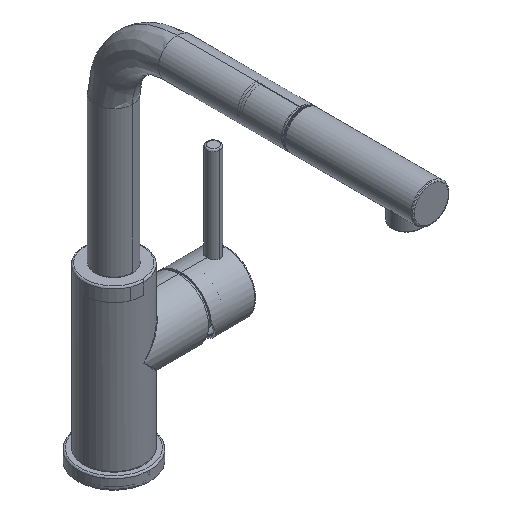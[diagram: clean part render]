
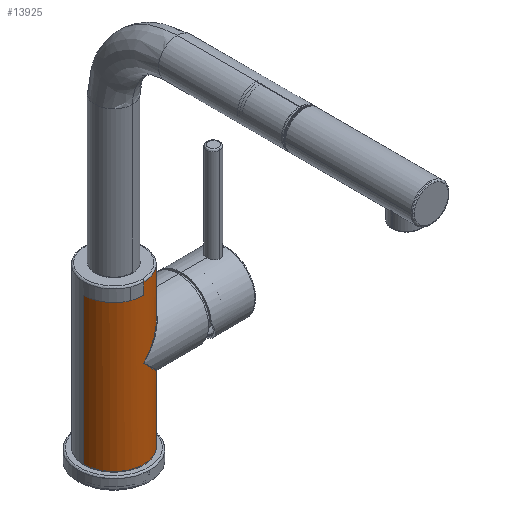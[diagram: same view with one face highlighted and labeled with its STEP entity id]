
A CAD part, isometric view. The second image highlights one B-rep face of the part: STEP entity #13925.
In plain terms, the highlighted cylindrical face has radius 22.5 mm (diameter 45 mm), a partial arc.
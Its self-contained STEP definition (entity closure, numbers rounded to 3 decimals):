
#5819=TRIMMED_CURVE($,#6822,(#226521),(#226522),.T.,.CARTESIAN.);
#5820=TRIMMED_CURVE($,#6823,(#226526),(#226527),.T.,.CARTESIAN.);
#5821=TRIMMED_CURVE($,#6824,(#226537),(#226538),.T.,.CARTESIAN.);
#5822=TRIMMED_CURVE($,#6825,(#226566),(#226567),.T.,.CARTESIAN.);
#5823=TRIMMED_CURVE($,#6826,(#226569),(#226570),.T.,.CARTESIAN.);
#6822=CIRCLE('',#126799,22.5);
#6823=CIRCLE('',#126800,22.5);
#6824=CIRCLE('',#126801,22.5);
#6825=CIRCLE('',#126802,22.5);
#6826=CIRCLE('',#126803,22.5);
#7603=CYLINDRICAL_SURFACE('',#126610,22.5);
#13925=ADVANCED_FACE('',(#20317),#7603,.T.);
#20317=FACE_OUTER_BOUND('',#26688,.T.);
#26688=EDGE_LOOP('',(#54245,#54246,#54247,#54248,#54249,#54250,#54251,#54252,
#54253,#54254,#54255,#54256,#54257,#54258));
#54245=ORIENTED_EDGE('',*,*,#76799,.T.);
#54246=ORIENTED_EDGE('',*,*,#76800,.T.);
#54247=ORIENTED_EDGE('',*,*,#76798,.T.);
#54248=ORIENTED_EDGE('',*,*,#76797,.T.);
#54249=ORIENTED_EDGE('',*,*,#76796,.T.);
#54250=ORIENTED_EDGE('',*,*,#76803,.T.);
#54251=ORIENTED_EDGE('',*,*,#76795,.T.);
#54252=ORIENTED_EDGE('',*,*,#76790,.F.);
#54253=ORIENTED_EDGE('',*,*,#76794,.T.);
#54254=ORIENTED_EDGE('',*,*,#76802,.F.);
#54255=ORIENTED_EDGE('',*,*,#76801,.F.);
#54256=ORIENTED_EDGE('',*,*,#76793,.T.);
#54257=ORIENTED_EDGE('',*,*,#76792,.T.);
#54258=ORIENTED_EDGE('',*,*,#76791,.T.);
#76790=EDGE_CURVE('',#112268,#112269,#5819,.T.);
#76791=EDGE_CURVE('',#112273,#112271,#98021,.T.);
#76792=EDGE_CURVE('',#112274,#112273,#5820,.T.);
#76793=EDGE_CURVE('',#112275,#112274,#98022,.T.);
#76794=EDGE_CURVE('',#112268,#112276,#98023,.T.);
#76795=EDGE_CURVE('',#112277,#112269,#98024,.T.);
#76796=EDGE_CURVE('',#112279,#112278,#98025,.T.);
#76797=EDGE_CURVE('',#112280,#112279,#5821,.T.);
#76798=EDGE_CURVE('',#112281,#112280,#98026,.T.);
#76799=EDGE_CURVE('',#112271,#112272,#98027,.T.);
#76800=EDGE_CURVE('',#112272,#112281,#98028,.T.);
#76801=EDGE_CURVE('',#112275,#112282,#5822,.T.);
#76802=EDGE_CURVE('',#112282,#112276,#5823,.T.);
#76803=EDGE_CURVE('',#112278,#112277,#98029,.T.);
#98021=B_SPLINE_CURVE_WITH_KNOTS('',1,(#226523,#226524),.UNSPECIFIED.,.F.,
 .F.,(2,2),(-42.5,0.),.UNSPECIFIED.);
#98022=B_SPLINE_CURVE_WITH_KNOTS('',1,(#226528,#226529),.UNSPECIFIED.,.F.,
 .F.,(2,2),(-110.,0.),.UNSPECIFIED.);
#98023=B_SPLINE_CURVE_WITH_KNOTS('',1,(#226530,#226531),.UNSPECIFIED.,.F.,
 .F.,(2,2),(-8.8,0.),.UNSPECIFIED.);
#98024=B_SPLINE_CURVE_WITH_KNOTS('',1,(#226532,#226533),.UNSPECIFIED.,.F.,
 .F.,(2,2),(-4.55,0.),.UNSPECIFIED.);
#98025=B_SPLINE_CURVE_WITH_KNOTS('',1,(#226534,#226535),.UNSPECIFIED.,.F.,
 .F.,(2,2),(-0.15,0.),.UNSPECIFIED.);
#98026=B_SPLINE_CURVE_WITH_KNOTS('',1,(#226539,#226540),.UNSPECIFIED.,.F.,
 .F.,(2,2),(-20.5,0.),.UNSPECIFIED.);
#98027=B_SPLINE_CURVE_WITH_KNOTS('',3,(#226541,#226542,#226543,#226544,
#226545,#226546,#226547,#226548,#226549,#226550,#226551,#226552),
 .UNSPECIFIED.,.F.,.F.,(4,1,1,1,1,1,1,1,1,4),(0.,4.859,9.718,
14.577,19.436,24.295,29.154,34.013,
38.872,43.73),.UNSPECIFIED.);
#98028=B_SPLINE_CURVE_WITH_KNOTS('',3,(#226553,#226554,#226555,#226556,
#226557,#226558,#226559,#226560,#226561,#226562,#226563,#226564),
 .UNSPECIFIED.,.F.,.F.,(4,1,1,1,1,1,1,1,1,4),(0.,4.859,9.718,
14.577,19.436,24.295,29.154,34.013,
38.872,43.73),.UNSPECIFIED.);
#98029=B_SPLINE_CURVE_WITH_KNOTS('',3,(#226571,#226572,#226573,#226574,
#226575,#226576,#226577,#226578,#226579,#226580,#226581,#226582),
 .UNSPECIFIED.,.F.,.F.,(4,1,1,1,1,1,1,1,1,4),(0.,0.726,1.452,
2.178,2.905,3.631,4.357,5.083,
5.809,6.535),.UNSPECIFIED.);
#112268=VERTEX_POINT('',#224937);
#112269=VERTEX_POINT('',#224938);
#112271=VERTEX_POINT('',#224940);
#112272=VERTEX_POINT('',#224941);
#112273=VERTEX_POINT('',#224942);
#112274=VERTEX_POINT('',#224943);
#112275=VERTEX_POINT('',#224944);
#112276=VERTEX_POINT('',#224945);
#112277=VERTEX_POINT('',#224946);
#112278=VERTEX_POINT('',#224947);
#112279=VERTEX_POINT('',#224948);
#112280=VERTEX_POINT('',#224949);
#112281=VERTEX_POINT('',#224950);
#112282=VERTEX_POINT('',#224951);
#126610=AXIS2_PLACEMENT_3D('',#221333,#134313,$);
#126799=AXIS2_PLACEMENT_3D($,#226520,#134610,#134611);
#126800=AXIS2_PLACEMENT_3D($,#226525,#134612,#134613);
#126801=AXIS2_PLACEMENT_3D($,#226536,#134614,#134615);
#126802=AXIS2_PLACEMENT_3D($,#226565,#134616,#134617);
#126803=AXIS2_PLACEMENT_3D($,#226568,#134618,#134619);
#134313=DIRECTION('',(0.,0.,1.));
#134610=DIRECTION('',(0.,0.,1.));
#134611=DIRECTION('',(0.,-1.,0.));
#134612=DIRECTION('',(0.,0.,1.));
#134613=DIRECTION('',(-1.,0.,0.));
#134614=DIRECTION('',(0.,0.,1.));
#134615=DIRECTION('',(1.,0.,0.));
#134616=DIRECTION('',(0.,0.,1.));
#134617=DIRECTION('',(-1.,0.,0.));
#134618=DIRECTION('',(0.,0.,1.));
#134619=DIRECTION('',(-0.368,-0.93,0.));
#221333=CARTESIAN_POINT('',(0.,125.832,142.355));
#224937=CARTESIAN_POINT('',(0.,103.332,201.755));
#224938=CARTESIAN_POINT('',(0.,148.332,201.755));
#224940=CARTESIAN_POINT('',(22.5,125.832,125.455));
#224941=CARTESIAN_POINT('',(0.,103.332,148.955));
#224942=CARTESIAN_POINT('',(22.5,125.832,82.955));
#224943=CARTESIAN_POINT('',(-22.5,125.832,82.955));
#224944=CARTESIAN_POINT('',(-22.5,125.832,192.955));
#224945=CARTESIAN_POINT('',(0.,103.332,192.955));
#224946=CARTESIAN_POINT('',(0.,148.332,197.205));
#224947=CARTESIAN_POINT('',(0.,148.332,193.105));
#224948=CARTESIAN_POINT('',(0.,148.332,192.955));
#224949=CARTESIAN_POINT('',(22.5,125.832,192.955));
#224950=CARTESIAN_POINT('',(22.5,125.832,172.455));
#224951=CARTESIAN_POINT('',(-8.283,104.912,192.955));
#226520=CARTESIAN_POINT('',(0.,125.832,201.755));
#226521=CARTESIAN_POINT('',(0.,103.332,201.755));
#226522=CARTESIAN_POINT('',(0.,148.332,201.755));
#226523=CARTESIAN_POINT('',(22.5,125.832,82.955));
#226524=CARTESIAN_POINT('',(22.5,125.832,125.455));
#226525=CARTESIAN_POINT('',(0.,125.832,82.955));
#226526=CARTESIAN_POINT('',(-22.5,125.832,82.955));
#226527=CARTESIAN_POINT('',(22.5,125.832,82.955));
#226528=CARTESIAN_POINT('',(-22.5,125.832,192.955));
#226529=CARTESIAN_POINT('',(-22.5,125.832,82.955));
#226530=CARTESIAN_POINT('',(0.,103.332,201.755));
#226531=CARTESIAN_POINT('',(0.,103.332,192.955));
#226532=CARTESIAN_POINT('',(0.,148.332,197.205));
#226533=CARTESIAN_POINT('',(0.,148.332,201.755));
#226534=CARTESIAN_POINT('',(0.,148.332,192.955));
#226535=CARTESIAN_POINT('',(0.,148.332,193.105));
#226536=CARTESIAN_POINT('',(0.,125.832,192.955));
#226537=CARTESIAN_POINT('',(22.5,125.832,192.955));
#226538=CARTESIAN_POINT('',(0.,148.332,192.955));
#226539=CARTESIAN_POINT('',(22.5,125.832,172.455));
#226540=CARTESIAN_POINT('',(22.5,125.832,192.955));
#226541=CARTESIAN_POINT('',(22.5,125.832,125.455));
#226542=CARTESIAN_POINT('',(22.5,124.776,125.455));
#226543=CARTESIAN_POINT('',(22.353,122.624,125.608));
#226544=CARTESIAN_POINT('',(21.619,119.293,126.375));
#226545=CARTESIAN_POINT('',(20.385,116.098,127.665));
#226546=CARTESIAN_POINT('',(18.594,112.98,129.535));
#226547=CARTESIAN_POINT('',(16.144,109.993,132.094));
#226548=CARTESIAN_POINT('',(13.063,107.357,135.312));
#226549=CARTESIAN_POINT('',(9.329,105.189,139.211));
#226550=CARTESIAN_POINT('',(4.835,103.684,143.905));
#226551=CARTESIAN_POINT('',(1.647,103.332,147.235));
#226552=CARTESIAN_POINT('',(0.,103.332,148.955));
#226553=CARTESIAN_POINT('',(0.,103.332,148.955));
#226554=CARTESIAN_POINT('',(1.648,103.332,150.676));
#226555=CARTESIAN_POINT('',(4.836,103.684,154.006));
#226556=CARTESIAN_POINT('',(9.327,105.189,158.697));
#226557=CARTESIAN_POINT('',(13.052,107.35,162.588));
#226558=CARTESIAN_POINT('',(16.131,109.98,165.803));
#226559=CARTESIAN_POINT('',(18.581,112.962,168.362));
#226560=CARTESIAN_POINT('',(20.374,116.076,170.235));
#226561=CARTESIAN_POINT('',(21.614,119.274,171.53));
#226562=CARTESIAN_POINT('',(22.354,122.62,172.302));
#226563=CARTESIAN_POINT('',(22.5,124.775,172.455));
#226564=CARTESIAN_POINT('',(22.5,125.832,172.455));
#226565=CARTESIAN_POINT('',(0.,125.832,192.955));
#226566=CARTESIAN_POINT('',(-22.5,125.832,192.955));
#226567=CARTESIAN_POINT('',(-8.283,104.912,192.955));
#226568=CARTESIAN_POINT('',(0.,125.832,192.955));
#226569=CARTESIAN_POINT('',(-8.283,104.912,192.955));
#226570=CARTESIAN_POINT('',(0.,103.332,192.955));
#226571=CARTESIAN_POINT('',(0.,148.332,193.105));
#226572=CARTESIAN_POINT('',(0.245,148.332,193.105));
#226573=CARTESIAN_POINT('',(0.704,148.324,193.187));
#226574=CARTESIAN_POINT('',(1.341,148.294,193.548));
#226575=CARTESIAN_POINT('',(1.81,148.26,194.106));
#226576=CARTESIAN_POINT('',(2.06,148.237,194.787));
#226577=CARTESIAN_POINT('',(2.061,148.237,195.519));
#226578=CARTESIAN_POINT('',(1.811,148.26,196.203));
#226579=CARTESIAN_POINT('',(1.344,148.294,196.76));
#226580=CARTESIAN_POINT('',(0.704,148.324,197.124));
#226581=CARTESIAN_POINT('',(0.245,148.332,197.205));
#226582=CARTESIAN_POINT('',(0.,148.332,197.205));
